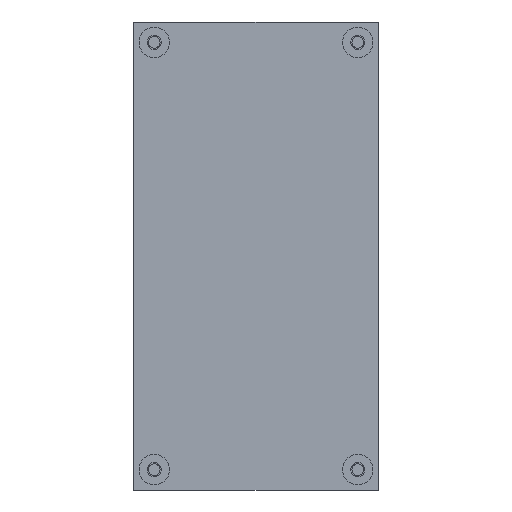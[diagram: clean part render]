
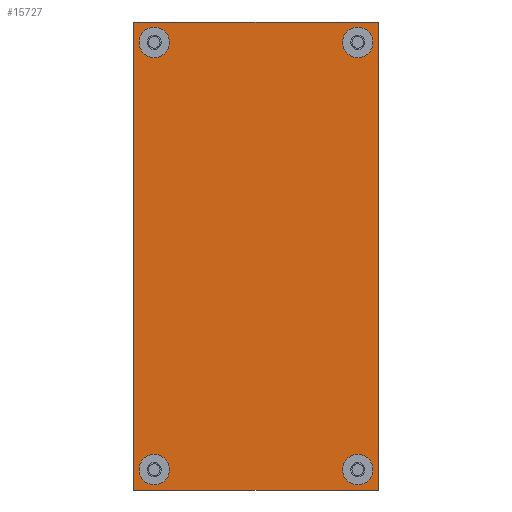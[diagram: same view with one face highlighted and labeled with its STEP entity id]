
A CAD part, front view. The second image highlights one B-rep face of the part: STEP entity #15727.
In plain terms, the highlighted planar face has unit normal (0, -1, 0).
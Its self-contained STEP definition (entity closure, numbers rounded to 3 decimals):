
#142 = ORIENTED_EDGE ( 'NONE', *, *, #24151, .T. ) ;
#433 = ORIENTED_EDGE ( 'NONE', *, *, #9737, .F. ) ;
#517 = PLANE ( 'NONE',  #2169 ) ;
#570 = VERTEX_POINT ( 'NONE', #5837 ) ;
#656 = EDGE_LOOP ( 'NONE', ( #11279, #1428, #24863, #433 ) ) ;
#976 = DIRECTION ( 'NONE',  ( 1., 0., 0. ) ) ;
#1104 = DIRECTION ( 'NONE',  ( 0., 1., 0. ) ) ;
#1428 = ORIENTED_EDGE ( 'NONE', *, *, #19884, .F. ) ;
#1454 = VERTEX_POINT ( 'NONE', #5364 ) ;
#1523 = CIRCLE ( 'NONE', #10541, 3.81 ) ;
#1568 = VECTOR ( 'NONE', #16006, 1000. ) ;
#1576 = CARTESIAN_POINT ( 'NONE',  ( 36.442, 64.833, 12.46 ) ) ;
#1758 = CIRCLE ( 'NONE', #14245, 3.81 ) ;
#2132 = DIRECTION ( 'NONE',  ( 0., 1., 0. ) ) ;
#2169 = AXIS2_PLACEMENT_3D ( 'NONE', #3060, #24094, #17463 ) ;
#2517 = VERTEX_POINT ( 'NONE', #9771 ) ;
#2523 = FACE_BOUND ( 'NONE', #12934, .T. ) ;
#3021 = CARTESIAN_POINT ( 'NONE',  ( 92.322, 64.833, 124.22 ) ) ;
#3034 = EDGE_CURVE ( 'NONE', #19354, #25735, #19834, .T. ) ;
#3051 = DIRECTION ( 'NONE',  ( 1., 0., 0. ) ) ;
#3060 = CARTESIAN_POINT ( 'NONE',  ( 36.442, 64.833, 129.3 ) ) ;
#3186 = CARTESIAN_POINT ( 'NONE',  ( 92.322, 64.833, 17.54 ) ) ;
#3484 = CIRCLE ( 'NONE', #24490, 3.81 ) ;
#4020 = CARTESIAN_POINT ( 'NONE',  ( 97.402, 64.833, 12.46 ) ) ;
#4037 = VECTOR ( 'NONE', #17650, 1000. ) ;
#4103 = VECTOR ( 'NONE', #9762, 1000. ) ;
#4121 = VERTEX_POINT ( 'NONE', #5707 ) ;
#5074 = DIRECTION ( 'NONE',  ( 0., 1., 0. ) ) ;
#5364 = CARTESIAN_POINT ( 'NONE',  ( 37.712, 64.833, 124.22 ) ) ;
#5550 = DIRECTION ( 'NONE',  ( 1., 0., 0. ) ) ;
#5707 = CARTESIAN_POINT ( 'NONE',  ( 45.332, 64.833, 124.22 ) ) ;
#5735 = CIRCLE ( 'NONE', #20751, 3.81 ) ;
#5784 = CARTESIAN_POINT ( 'NONE',  ( 41.522, 64.833, 17.54 ) ) ;
#5837 = CARTESIAN_POINT ( 'NONE',  ( 36.442, 64.833, 129.3 ) ) ;
#6166 = DIRECTION ( 'NONE',  ( 0., 1., 0. ) ) ;
#6207 = CARTESIAN_POINT ( 'NONE',  ( 36.442, 64.833, 129.3 ) ) ;
#6731 = DIRECTION ( 'NONE',  ( 1., 0., 0. ) ) ;
#6866 = CARTESIAN_POINT ( 'NONE',  ( 45.332, 64.833, 17.54 ) ) ;
#7226 = ORIENTED_EDGE ( 'NONE', *, *, #25137, .T. ) ;
#7572 = CARTESIAN_POINT ( 'NONE',  ( 41.522, 64.833, 124.22 ) ) ;
#7701 = DIRECTION ( 'NONE',  ( 0., 1., 0. ) ) ;
#7908 = CARTESIAN_POINT ( 'NONE',  ( 97.402, 64.833, 12.46 ) ) ;
#8036 = EDGE_LOOP ( 'NONE', ( #18612, #13501 ) ) ;
#8252 = AXIS2_PLACEMENT_3D ( 'NONE', #5784, #6166, #12885 ) ;
#9604 = CARTESIAN_POINT ( 'NONE',  ( 97.402, 64.833, 129.3 ) ) ;
#9737 = EDGE_CURVE ( 'NONE', #570, #23755, #12522, .T. ) ;
#9762 = DIRECTION ( 'NONE',  ( 0., 0., 1. ) ) ;
#9771 = CARTESIAN_POINT ( 'NONE',  ( 88.512, 64.833, 17.54 ) ) ;
#9907 = AXIS2_PLACEMENT_3D ( 'NONE', #19773, #7701, #976 ) ;
#10541 = AXIS2_PLACEMENT_3D ( 'NONE', #24304, #2132, #16021 ) ;
#10568 = CARTESIAN_POINT ( 'NONE',  ( 37.712, 64.833, 17.54 ) ) ;
#10929 = EDGE_CURVE ( 'NONE', #23755, #21251, #17734, .T. ) ;
#11279 = ORIENTED_EDGE ( 'NONE', *, *, #24233, .F. ) ;
#11338 = CARTESIAN_POINT ( 'NONE',  ( 92.322, 64.833, 124.22 ) ) ;
#11463 = LINE ( 'NONE', #25943, #4037 ) ;
#12522 = LINE ( 'NONE', #6207, #25030 ) ;
#12565 = ORIENTED_EDGE ( 'NONE', *, *, #16174, .T. ) ;
#12831 = CARTESIAN_POINT ( 'NONE',  ( 41.522, 64.833, 17.54 ) ) ;
#12880 = FACE_BOUND ( 'NONE', #19836, .T. ) ;
#12885 = DIRECTION ( 'NONE',  ( 1., 0., 0. ) ) ;
#12934 = EDGE_LOOP ( 'NONE', ( #7226, #18529 ) ) ;
#13096 = DIRECTION ( 'NONE',  ( 1., 0., 0. ) ) ;
#13118 = VERTEX_POINT ( 'NONE', #22729 ) ;
#13182 = ORIENTED_EDGE ( 'NONE', *, *, #16056, .T. ) ;
#13501 = ORIENTED_EDGE ( 'NONE', *, *, #18615, .T. ) ;
#13772 = EDGE_CURVE ( 'NONE', #4121, #1454, #19790, .T. ) ;
#13789 = DIRECTION ( 'NONE',  ( 0., 1., 0. ) ) ;
#14245 = AXIS2_PLACEMENT_3D ( 'NONE', #11338, #1104, #5550 ) ;
#15102 = EDGE_CURVE ( 'NONE', #17014, #19061, #3484, .T. ) ;
#15727 = ADVANCED_FACE ( 'NONE', ( #20939, #12880, #2523, #18910, #18646 ), #517, .F. ) ;
#15966 = VERTEX_POINT ( 'NONE', #16861 ) ;
#16006 = DIRECTION ( 'NONE',  ( 0., 0., -1. ) ) ;
#16021 = DIRECTION ( 'NONE',  ( 1., 0., 0. ) ) ;
#16056 = EDGE_CURVE ( 'NONE', #15966, #2517, #22344, .T. ) ;
#16174 = EDGE_CURVE ( 'NONE', #19061, #17014, #1758, .T. ) ;
#16359 = ORIENTED_EDGE ( 'NONE', *, *, #15102, .T. ) ;
#16861 = CARTESIAN_POINT ( 'NONE',  ( 96.132, 64.833, 17.54 ) ) ;
#17014 = VERTEX_POINT ( 'NONE', #22305 ) ;
#17463 = DIRECTION ( 'NONE',  ( 1., 0., 0. ) ) ;
#17650 = DIRECTION ( 'NONE',  ( -1., 0., 0. ) ) ;
#17734 = LINE ( 'NONE', #4020, #1568 ) ;
#17770 = EDGE_LOOP ( 'NONE', ( #142, #13182 ) ) ;
#17866 = CARTESIAN_POINT ( 'NONE',  ( 88.512, 64.833, 124.22 ) ) ;
#18082 = AXIS2_PLACEMENT_3D ( 'NONE', #7572, #13789, #19926 ) ;
#18529 = ORIENTED_EDGE ( 'NONE', *, *, #13772, .T. ) ;
#18612 = ORIENTED_EDGE ( 'NONE', *, *, #3034, .T. ) ;
#18615 = EDGE_CURVE ( 'NONE', #25735, #19354, #5735, .T. ) ;
#18646 = FACE_OUTER_BOUND ( 'NONE', #656, .T. ) ;
#18910 = FACE_BOUND ( 'NONE', #17770, .T. ) ;
#19061 = VERTEX_POINT ( 'NONE', #17866 ) ;
#19354 = VERTEX_POINT ( 'NONE', #10568 ) ;
#19773 = CARTESIAN_POINT ( 'NONE',  ( 92.322, 64.833, 17.54 ) ) ;
#19790 = CIRCLE ( 'NONE', #18082, 3.81 ) ;
#19834 = CIRCLE ( 'NONE', #8252, 3.81 ) ;
#19836 = EDGE_LOOP ( 'NONE', ( #12565, #16359 ) ) ;
#19884 = EDGE_CURVE ( 'NONE', #21251, #13118, #11463, .T. ) ;
#19926 = DIRECTION ( 'NONE',  ( 1., 0., 0. ) ) ;
#20751 = AXIS2_PLACEMENT_3D ( 'NONE', #12831, #22772, #13096 ) ;
#20824 = AXIS2_PLACEMENT_3D ( 'NONE', #3186, #5074, #3051 ) ;
#20939 = FACE_BOUND ( 'NONE', #8036, .T. ) ;
#21251 = VERTEX_POINT ( 'NONE', #7908 ) ;
#21957 = DIRECTION ( 'NONE',  ( 0., 1., 0. ) ) ;
#22305 = CARTESIAN_POINT ( 'NONE',  ( 96.132, 64.833, 124.22 ) ) ;
#22344 = CIRCLE ( 'NONE', #9907, 3.81 ) ;
#22729 = CARTESIAN_POINT ( 'NONE',  ( 36.442, 64.833, 12.46 ) ) ;
#22772 = DIRECTION ( 'NONE',  ( 0., 1., 0. ) ) ;
#23570 = DIRECTION ( 'NONE',  ( 1., 0., 0. ) ) ;
#23755 = VERTEX_POINT ( 'NONE', #9604 ) ;
#23868 = LINE ( 'NONE', #1576, #4103 ) ;
#24094 = DIRECTION ( 'NONE',  ( 0., 1., 0. ) ) ;
#24151 = EDGE_CURVE ( 'NONE', #2517, #15966, #24662, .T. ) ;
#24233 = EDGE_CURVE ( 'NONE', #13118, #570, #23868, .T. ) ;
#24304 = CARTESIAN_POINT ( 'NONE',  ( 41.522, 64.833, 124.22 ) ) ;
#24490 = AXIS2_PLACEMENT_3D ( 'NONE', #3021, #21957, #23570 ) ;
#24662 = CIRCLE ( 'NONE', #20824, 3.81 ) ;
#24863 = ORIENTED_EDGE ( 'NONE', *, *, #10929, .F. ) ;
#25030 = VECTOR ( 'NONE', #6731, 1000. ) ;
#25137 = EDGE_CURVE ( 'NONE', #1454, #4121, #1523, .T. ) ;
#25735 = VERTEX_POINT ( 'NONE', #6866 ) ;
#25943 = CARTESIAN_POINT ( 'NONE',  ( 36.442, 64.833, 12.46 ) ) ;
